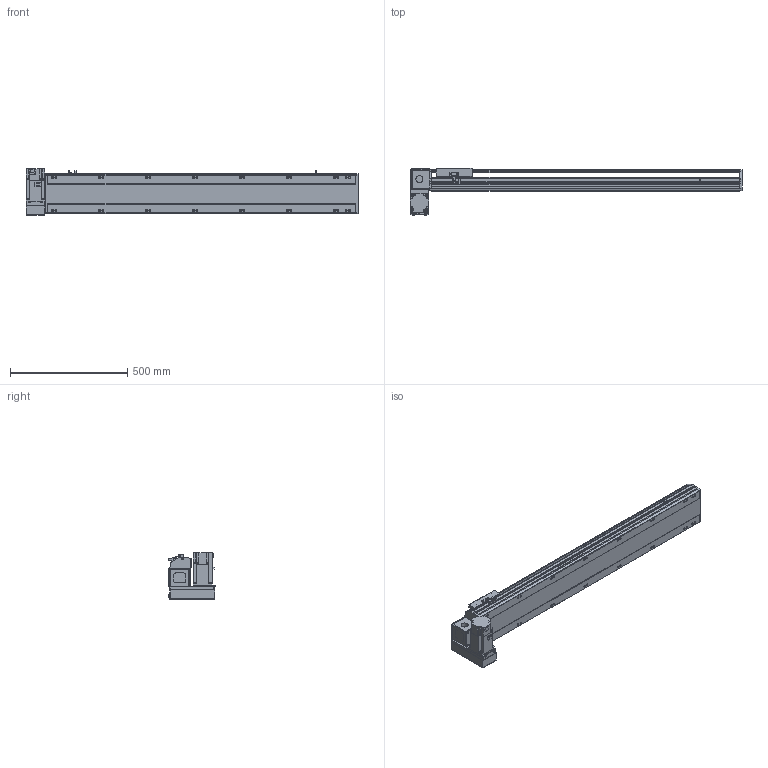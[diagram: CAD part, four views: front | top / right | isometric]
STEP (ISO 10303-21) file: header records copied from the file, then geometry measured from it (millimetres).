
FILE_DESCRIPTION(/* description */ ('STEP AP214'),/* implementation_level */ '2;1');
FILE_NAME(/* name */ 'PBS170-P40-S1050-LD-T75-C1-N(0)',/* time_stamp */ '2022-06-07T09:51:26+02:00',/* author */ ('License CC BY-ND 4.0'),/* organization */ ('CADENAS'),/* preprocessor_version */ 'ST-DEVELOPER v18.102',/* originating_system */ 'PARTsolutions',/* authorisation */ ' ');
FILE_SCHEMA (('AUTOMOTIVE_DESIGN {1 0 10303 214 3 1 1}'));
Length unit declared in the file: millimetre
Products named in the file (7): PBS170-P40-S1050-LD-T75-C1-N(0); PBS170_sensor; PBS170_plant; PBS170_sliser; T75-p1; PBS170T-LD_motors; PBS170-S1050()_body
Assembly tree (8 placements, depth 2):
  PBS170-P40-S1050-LD-T75-C1-N(0)
    PBS170_sensor  x3
    PBS170_plant
    PBS170_sliser
    T75-p1
    PBS170T-LD_motors
    PBS170-S1050()_body
Bounding box: 1413 x 201 x 197.3 mm (x, y, z)
Volume: 11343946.9 mm3; surface area: 1484227.3 mm2
Topology: 8 solids, 8 shells, 1082 faces, 2875 edges, 1874 vertices
Faces by surface type: plane 687, cylinder 339, cone 46, sphere 8, torus 2
Full cylindrical faces by diameter (mm): 3.242 x4, 4 x2, 4.4 x4, 4.5 x6, 4.917 x4, 6 x9, 6.647 x24, 7 x2, 7.5 x4, 8 x8, 8.5 x16, 10 x4, 10.5 x16, 11 x2, 30 x2, 40 x1, 70 x1
Entity records: 31118 total; most frequent: CARTESIAN_POINT 5713, DIRECTION 5300, ORIENTED_EDGE 5028, EDGE_CURVE 2514, AXIS2_PLACEMENT_3D 1837, VERTEX_POINT 1730, LINE 1626, VECTOR 1626
